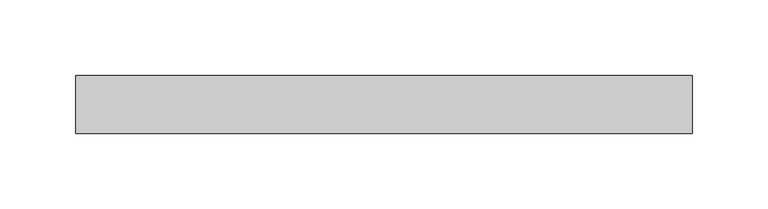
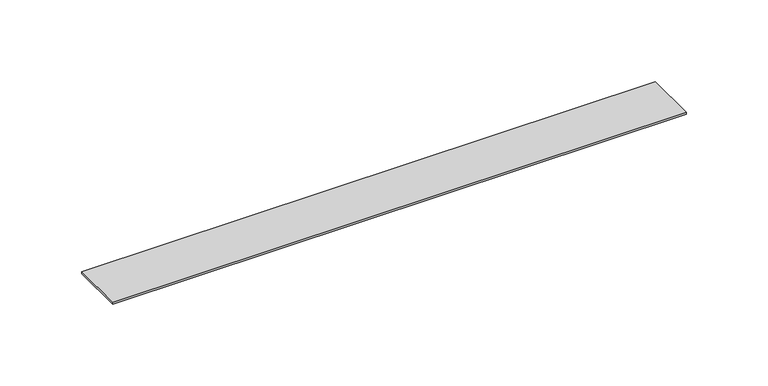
"""IFC4 building model written with IfcOpenShell, lengths in millimetres: proxy geometry, FOUNDATION^STANDARD CREDENZA_WEBSITE DETAIL-VENT GRILL."""

from ifc_helpers import new_model, si_unit, frame, origin, place, context, project, spatial, polyline, outline, extrude, source, transform, mapped, element, save


def generic_models_73e0ed49(model_context):
    return source(origin(), model_context, "Body", "SweptSolid", [
        extrude(outline(polyline([(529.43125, 0.0), (123.03125, 0.0), (123.03125, 38.1), (529.43125, 38.1), (529.43125, 0.0)])), frame((0.0, 0.0, 595.38108), z_axis=(0.0, 0.0, 1.0), x_axis=(1.0, 0.0, 0.0)), (0.0, 0.0, 1.0), 1.51892),
    ])


if __name__ == "__main__":
    model = new_model("IFC4")
    model_context = context("Model", 3, world=origin())
    ifc_project = project(units=[si_unit("LENGTHUNIT", "METRE", prefix="MILLI")], contexts=[model_context])
    site = spatial("IfcSite", under=ifc_project)
    building = spatial("IfcBuilding", under=site)
    placement = place(None, origin())
    generic_models_shape = generic_models_73e0ed49(model_context)
    element("IfcBuildingElementProxy", 1, Name="FOUNDATION^STANDARD CREDENZA_WEBSITE DETAIL-VENT GRILL", ObjectType="FOUNDATION^STANDARD CREDENZA_WEBSITE DETAIL-VENT GRILL", at=placement, inside=building, context=model_context, shape_type="MappedRepresentation", body=[
        mapped(generic_models_shape, transform((0.0, 0.0, 0.0), x_axis=(1.0, 0.0, 0.0), y_axis=(0.0, 1.0, 0.0), z_axis=(0.0, 0.0, 1.0))),
    ])
    save(model, "model.ifc")
